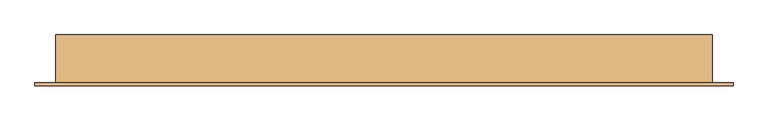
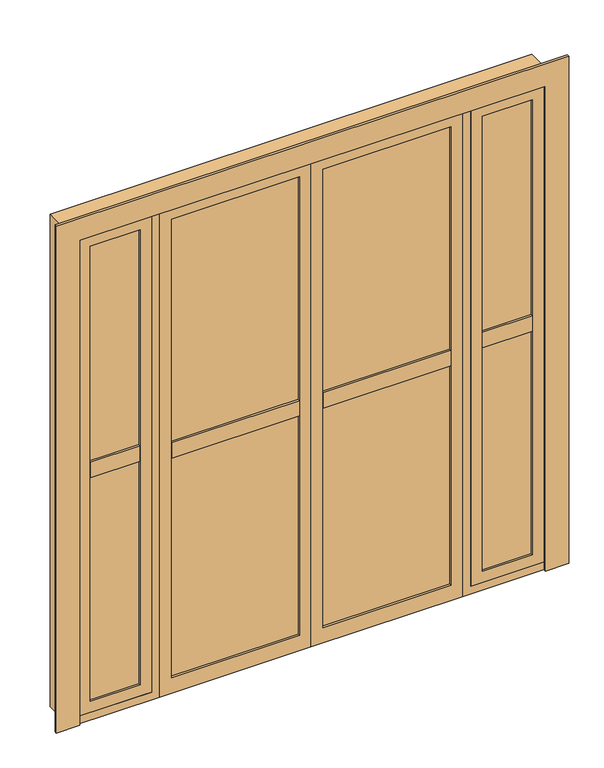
"""IFC4 building model written with IfcOpenShell, lengths in millimetres: door geometry, PORTA DE VIDRO COM ESQUADRIA DE ABRIR - 2 FOLHAS + LUZES LATERAIS - 2 FOLHAS : (31,5) 130 (31,5) X 220."""

from ifc_helpers import new_model, si_unit, frame, origin, place, context, project, spatial, polyline, outline, extrude, faceted_brep, source, transform, mapped, element, save


def door_b5212ac3(model_context):
    return source(origin(), model_context, "Body", "SolidModel", [
        extrude(outline(polyline([(625.0, -50.0), (625.0, -75.0), (75.0, -75.0), (75.0, -50.0), (625.0, -50.0)])), frame((0.0, 0.0, 1065.0), z_axis=(0.0, 0.0, 1.0), x_axis=(1.0, 0.0, 0.0)), (0.0, 0.0, 1.0), 70.0),
        extrude(outline(polyline([(75.0, -59.5), (625.0, -59.5), (625.0, -65.5), (75.0, -65.5), (75.0, -59.5)])), frame((0.0, 0.0, 70.0), z_axis=(0.0, 0.0, 1.0), x_axis=(1.0, 0.0, 0.0)), (0.0, 0.0, 1.0), 2080.0),
        extrude(outline(polyline([(2200.0, 25.0), (0.0, 25.0), (0.0, 675.0), (2200.0, 675.0), (2200.0, 25.0)]), holes=[polyline([(2150.0, 75.0), (2150.0, 625.0), (70.0, 625.0), (70.0, 75.0), (2150.0, 75.0)])]), frame((0.0, -75.0, 0.0), z_axis=(0.0, 1.0, 0.0), x_axis=(0.0, 0.0, 1.0)), (0.0, 0.0, 1.0), 25.0),
        extrude(outline(polyline([(975.0, -59.5), (975.0, -65.5), (760.0, -65.5), (760.0, -59.5), (975.0, -59.5)])), frame((0.0, 0.0, 85.0), z_axis=(0.0, 0.0, 1.0), x_axis=(1.0, 0.0, 0.0)), (0.0, 0.0, 1.0), 2065.0),
        extrude(outline(polyline([(2200.0, 1025.0), (2200.0, 710.0), (35.0, 710.0), (35.0, 1025.0), (2200.0, 1025.0)]), holes=[polyline([(2150.0, 975.0), (85.0, 975.0), (85.0, 760.0), (2150.0, 760.0), (2150.0, 975.0)])]), frame((0.0, -75.0, 0.0), z_axis=(0.0, 1.0, 0.0), x_axis=(0.0, 0.0, 1.0)), (0.0, 0.0, 1.0), 25.0),
        extrude(outline(polyline([(760.0, -50.0), (975.0, -50.0), (975.0, -75.0), (760.0, -75.0), (760.0, -50.0)])), frame((0.0, 0.0, 1100.0), z_axis=(0.0, 0.0, 1.0), x_axis=(1.0, 0.0, 0.0)), (0.0, 0.0, 1.0), 70.0),
        extrude(outline(polyline([(-710.0, -59.5), (-710.0, -65.5), (-925.0, -65.5), (-925.0, -59.5), (-710.0, -59.5)])), frame((0.0, 0.0, 85.0), z_axis=(0.0, 0.0, 1.0), x_axis=(1.0, 0.0, 0.0)), (0.0, 0.0, 1.0), 2065.0),
        extrude(outline(polyline([(2200.0, -660.0), (2200.0, -975.0), (35.0, -975.0), (35.0, -660.0), (2200.0, -660.0)]), holes=[polyline([(2150.0, -710.0), (85.0, -710.0), (85.0, -925.0), (2150.0, -925.0), (2150.0, -710.0)])]), frame((0.0, -75.0, 0.0), z_axis=(0.0, 1.0, 0.0), x_axis=(0.0, 0.0, 1.0)), (0.0, 0.0, 1.0), 25.0),
        extrude(outline(polyline([(-925.0, -50.0), (-710.0, -50.0), (-710.0, -75.0), (-925.0, -75.0), (-925.0, -50.0)])), frame((0.0, 0.0, 1100.0), z_axis=(0.0, 0.0, 1.0), x_axis=(1.0, 0.0, 0.0)), (0.0, 0.0, 1.0), 70.0),
        extrude(outline(polyline([(-575.0, -50.0), (-25.0, -50.0), (-25.0, -75.0), (-575.0, -75.0), (-575.0, -50.0)])), frame((0.0, 0.0, 1065.0), z_axis=(0.0, 0.0, 1.0), x_axis=(1.0, 0.0, 0.0)), (0.0, 0.0, 1.0), 70.0),
        extrude(outline(polyline([(-25.0, -59.5), (-25.0, -65.5), (-575.0, -65.5), (-575.0, -59.5), (-25.0, -59.5)])), frame((0.0, 0.0, 70.0), z_axis=(0.0, 0.0, 1.0), x_axis=(1.0, 0.0, 0.0)), (0.0, 0.0, 1.0), 2080.0),
        extrude(outline(polyline([(2200.0, 25.0), (2200.0, -625.0), (0.0, -625.0), (0.0, 25.0), (2200.0, 25.0)]), holes=[polyline([(2150.0, -25.0), (70.0, -25.0), (70.0, -575.0), (2150.0, -575.0), (2150.0, -25.0)])]), frame((0.0, -75.0, 0.0), z_axis=(0.0, 1.0, 0.0), x_axis=(0.0, 0.0, 1.0)), (0.0, 0.0, 1.0), 25.0),
        extrude(outline(polyline([(2200.0, -975.0), (2200.0, 1025.0), (0.0, 1025.0), (0.0, 1125.0), (2300.0, 1125.0), (2300.0, -1075.0), (0.0, -1075.0), (0.0, -975.0), (2200.0, -975.0)])), frame((0.0, -85.0, 0.0), z_axis=(0.0, 1.0, 0.0), x_axis=(0.0, 0.0, 1.0)), (0.0, 0.0, 1.0), 10.0),
        faceted_brep([(675.0, -75.0, 0.0), (675.0, -50.0, 0.0), (665.0, -50.0, 0.0), (665.0, 75.0, 0.0), (1060.0, 75.0, 0.0), (1060.0, -75.0, 0.0), (675.0, -75.0, 2200.0), (675.0, -50.0, 2200.0), (-625.0, -50.0, 2200.0), (-625.0, -50.0, 0.0), (-615.0, -50.0, 0.0), (-615.0, -50.0, 2190.0), (665.0, -50.0, 2190.0), (665.0, 75.0, 2190.0), (-615.0, 75.0, 2190.0), (-615.0, 75.0, 0.0), (-1010.0, 75.0, 0.0), (-1010.0, 75.0, 2235.0), (1060.0, 75.0, 2235.0), (710.0, 75.0, 2200.0), (710.0, 75.0, 35.0), (1025.0, 75.0, 35.0), (1025.0, 75.0, 2200.0), (-660.0, 75.0, 35.0), (-660.0, 75.0, 2200.0), (-975.0, 75.0, 2200.0), (-975.0, 75.0, 35.0), (1060.0, -75.0, 2235.0), (-1010.0, -75.0, 2235.0), (-1010.0, -75.0, 0.0), (-625.0, -75.0, 0.0), (-625.0, -75.0, 2200.0), (-660.0, -75.0, 2200.0), (-660.0, -75.0, 35.0), (-975.0, -75.0, 35.0), (-975.0, -75.0, 2200.0), (710.0, -75.0, 35.0), (710.0, -75.0, 2200.0), (1025.0, -75.0, 2200.0), (1025.0, -75.0, 35.0)], [[[0, 1, 2, 3, 4, 5]], [[1, 0, 6, 7]], [[2, 1, 7, 8, 9, 10, 11, 12]], [[3, 2, 12, 13]], [[4, 3, 13, 14, 15, 16, 17, 18], [19, 20, 21, 22], [23, 24, 25, 26]], [[4, 18, 27, 5]], [[0, 5, 27, 28, 29, 30, 31, 6], [32, 33, 34, 35], [36, 37, 38, 39]], [[20, 19, 37, 36]], [[21, 20, 36, 39]], [[33, 32, 24, 23]], [[23, 26, 34, 33]], [[26, 25, 35, 34]], [[22, 21, 39, 38]], [[17, 16, 29, 28]], [[30, 29, 16, 15, 10, 9]], [[31, 30, 9, 8]], [[11, 10, 15, 14]], [[28, 27, 18, 17]], [[6, 31, 8, 7]], [[12, 11, 14, 13]], [[35, 25, 24, 32]], [[22, 38, 37, 19]]]),
    ])


if __name__ == "__main__":
    model = new_model("IFC4")
    model_context = context("Model", 3, world=origin())
    ifc_project = project(units=[si_unit("LENGTHUNIT", "METRE", prefix="MILLI")], contexts=[model_context])
    site = spatial("IfcSite", under=ifc_project)
    building = spatial("IfcBuilding", under=site)
    placement = place(None, origin())
    door_shape = door_b5212ac3(model_context)
    element("IfcDoor", 1, ObjectType="PORTA DE VIDRO COM ESQUADRIA DE ABRIR - 2 FOLHAS + LUZES LATERAIS - 2 FOLHAS : (31,5) 130 (31,5) X 220", at=placement, inside=building, context=model_context, shape_type="MappedRepresentation", body=[
        mapped(door_shape, transform((0.0, 0.0, 0.0), x_axis=(1.0, 0.0, 0.0), y_axis=(0.0, 1.0, 0.0), z_axis=(0.0, 0.0, 1.0))),
    ])
    save(model, "model.ifc")
